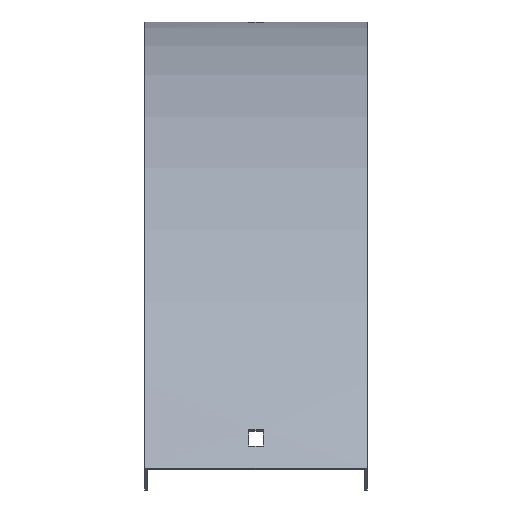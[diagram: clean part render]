
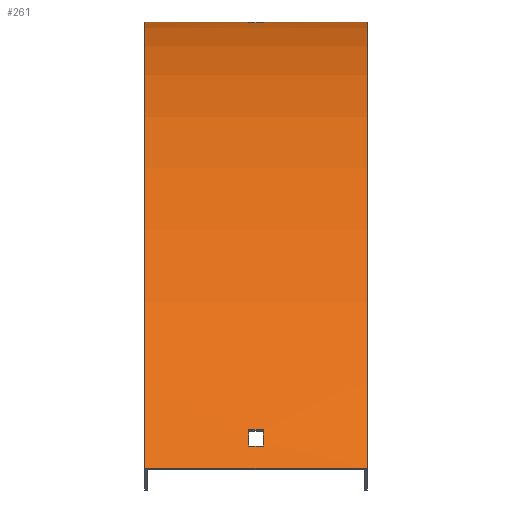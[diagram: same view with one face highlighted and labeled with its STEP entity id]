
A CAD part, top view. The second image highlights one B-rep face of the part: STEP entity #261.
In plain terms, the highlighted cylindrical face has radius 414 mm (diameter 828 mm), a partial arc.
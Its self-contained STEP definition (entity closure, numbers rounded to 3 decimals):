
#2 = VERTEX_POINT ( 'NONE', #54 ) ;
#13 = DIRECTION ( 'NONE',  ( 0., 1., 0. ) ) ;
#15 = CARTESIAN_POINT ( 'NONE',  ( -51.5, 0., 0. ) ) ;
#22 = DIRECTION ( 'NONE',  ( 0., 0., 1. ) ) ;
#35 = ORIENTED_EDGE ( 'NONE', *, *, #129, .F. ) ;
#41 = VERTEX_POINT ( 'NONE', #373 ) ;
#48 = FACE_BOUND ( 'NONE', #82, .T. ) ;
#54 = CARTESIAN_POINT ( 'NONE',  ( -3.25, -196.695, 352.384 ) ) ;
#58 = EDGE_CURVE ( 'NONE', #209, #598, #581, .T. ) ;
#66 = DIRECTION ( 'NONE',  ( -1., 0., 0. ) ) ;
#69 = CARTESIAN_POINT ( 'NONE',  ( 51.5, -0.174, 12. ) ) ;
#72 = VECTOR ( 'NONE', #508, 1000. ) ;
#73 = EDGE_CURVE ( 'NONE', #155, #554, #308, .T. ) ;
#74 = ORIENTED_EDGE ( 'NONE', *, *, #73, .T. ) ;
#80 = AXIS2_PLACEMENT_3D ( 'NONE', #163, #335, #22 ) ;
#82 = EDGE_LOOP ( 'NONE', ( #595, #362, #124, #502 ) ) ;
#86 = CYLINDRICAL_SURFACE ( 'NONE', #214, 414. ) ;
#88 = FACE_BOUND ( 'NONE', #398, .T. ) ;
#95 = CARTESIAN_POINT ( 'NONE',  ( -51.5, -414., 0. ) ) ;
#96 = CIRCLE ( 'NONE', #80, 414. ) ;
#97 = DIRECTION ( 'NONE',  ( 0., 0., 1. ) ) ;
#113 = ORIENTED_EDGE ( 'NONE', *, *, #372, .T. ) ;
#124 = ORIENTED_EDGE ( 'NONE', *, *, #509, .F. ) ;
#129 = EDGE_CURVE ( 'NONE', #161, #554, #487, .T. ) ;
#140 = DIRECTION ( 'NONE',  ( 0., 0., -1. ) ) ;
#145 = EDGE_CURVE ( 'NONE', #598, #500, #246, .T. ) ;
#151 = ORIENTED_EDGE ( 'NONE', *, *, #539, .T. ) ;
#155 = VERTEX_POINT ( 'NONE', #15 ) ;
#156 = DIRECTION ( 'NONE',  ( 1., 0., 0. ) ) ;
#159 = CARTESIAN_POINT ( 'NONE',  ( 3.25, -0.533, 21. ) ) ;
#161 = VERTEX_POINT ( 'NONE', #298 ) ;
#163 = CARTESIAN_POINT ( 'NONE',  ( 3.25, -414., 0. ) ) ;
#172 = FACE_OUTER_BOUND ( 'NONE', #534, .T. ) ;
#182 = AXIS2_PLACEMENT_3D ( 'NONE', #475, #339, #97 ) ;
#192 = CARTESIAN_POINT ( 'NONE',  ( 51.5, -414., 0. ) ) ;
#193 = CARTESIAN_POINT ( 'NONE',  ( 3.25, -0.174, 12. ) ) ;
#208 = VECTOR ( 'NONE', #291, 1000. ) ;
#209 = VERTEX_POINT ( 'NONE', #193 ) ;
#211 = VECTOR ( 'NONE', #570, 1000. ) ;
#212 = VERTEX_POINT ( 'NONE', #479 ) ;
#214 = AXIS2_PLACEMENT_3D ( 'NONE', #458, #411, #418 ) ;
#219 = LINE ( 'NONE', #374, #72 ) ;
#223 = CARTESIAN_POINT ( 'NONE',  ( 3.25, -414., 0. ) ) ;
#228 = VECTOR ( 'NONE', #342, 1000. ) ;
#241 = VECTOR ( 'NONE', #66, 1000. ) ;
#243 = ORIENTED_EDGE ( 'NONE', *, *, #293, .T. ) ;
#246 = LINE ( 'NONE', #442, #228 ) ;
#251 = EDGE_CURVE ( 'NONE', #2, #262, #219, .T. ) ;
#261 = ADVANCED_FACE ( 'NONE', ( #172, #88, #48 ), #86, .T. ) ;
#262 = VERTEX_POINT ( 'NONE', #515 ) ;
#270 = CIRCLE ( 'NONE', #594, 414. ) ;
#277 = LINE ( 'NONE', #381, #211 ) ;
#291 = DIRECTION ( 'NONE',  ( 1., 0., 0. ) ) ;
#293 = EDGE_CURVE ( 'NONE', #439, #155, #320, .T. ) ;
#298 = CARTESIAN_POINT ( 'NONE',  ( 51.5, -207., 358.535 ) ) ;
#308 = CIRCLE ( 'NONE', #469, 414. ) ;
#320 = LINE ( 'NONE', #425, #383 ) ;
#335 = DIRECTION ( 'NONE',  ( -1., 0., 0. ) ) ;
#339 = DIRECTION ( 'NONE',  ( -1., 0., 0. ) ) ;
#342 = DIRECTION ( 'NONE',  ( -1., 0., 0. ) ) ;
#347 = ORIENTED_EDGE ( 'NONE', *, *, #499, .F. ) ;
#358 = ORIENTED_EDGE ( 'NONE', *, *, #145, .T. ) ;
#362 = ORIENTED_EDGE ( 'NONE', *, *, #460, .F. ) ;
#370 = DIRECTION ( 'NONE',  ( -1., 0., 0. ) ) ;
#372 = EDGE_CURVE ( 'NONE', #500, #41, #491, .T. ) ;
#373 = CARTESIAN_POINT ( 'NONE',  ( -3.25, -0.174, 12. ) ) ;
#374 = CARTESIAN_POINT ( 'NONE',  ( 51.5, -196.695, 352.384 ) ) ;
#381 = CARTESIAN_POINT ( 'NONE',  ( 51.5, -189.08, 347.573 ) ) ;
#383 = VECTOR ( 'NONE', #370, 1000. ) ;
#387 = DIRECTION ( 'NONE',  ( 1., 0., 0. ) ) ;
#388 = DIRECTION ( 'NONE',  ( 1., 0., 0. ) ) ;
#398 = EDGE_LOOP ( 'NONE', ( #358, #113, #151, #507 ) ) ;
#399 = CARTESIAN_POINT ( 'NONE',  ( 51.5, 0., 0. ) ) ;
#400 = CARTESIAN_POINT ( 'NONE',  ( -3.25, -0.533, 21. ) ) ;
#404 = LINE ( 'NONE', #69, #208 ) ;
#411 = DIRECTION ( 'NONE',  ( -1., 0., 0. ) ) ;
#418 = DIRECTION ( 'NONE',  ( 0., 0., 1. ) ) ;
#425 = CARTESIAN_POINT ( 'NONE',  ( 51.5, 0., 0. ) ) ;
#439 = VERTEX_POINT ( 'NONE', #399 ) ;
#442 = CARTESIAN_POINT ( 'NONE',  ( 51.5, -0.533, 21. ) ) ;
#453 = AXIS2_PLACEMENT_3D ( 'NONE', #584, #156, #13 ) ;
#458 = CARTESIAN_POINT ( 'NONE',  ( 51.5, -414., 0. ) ) ;
#460 = EDGE_CURVE ( 'NONE', #580, #212, #277, .T. ) ;
#469 = AXIS2_PLACEMENT_3D ( 'NONE', #95, #388, #474 ) ;
#474 = DIRECTION ( 'NONE',  ( 0., 0., -1. ) ) ;
#475 = CARTESIAN_POINT ( 'NONE',  ( -3.25, -414., 0. ) ) ;
#479 = CARTESIAN_POINT ( 'NONE',  ( -3.25, -189.08, 347.573 ) ) ;
#480 = DIRECTION ( 'NONE',  ( 1., 0., 0. ) ) ;
#487 = LINE ( 'NONE', #492, #241 ) ;
#491 = CIRCLE ( 'NONE', #182, 414. ) ;
#492 = CARTESIAN_POINT ( 'NONE',  ( 51.5, -207., 358.535 ) ) ;
#499 = EDGE_CURVE ( 'NONE', #439, #161, #270, .T. ) ;
#500 = VERTEX_POINT ( 'NONE', #400 ) ;
#501 = AXIS2_PLACEMENT_3D ( 'NONE', #223, #480, #140 ) ;
#502 = ORIENTED_EDGE ( 'NONE', *, *, #251, .F. ) ;
#503 = CIRCLE ( 'NONE', #453, 414. ) ;
#507 = ORIENTED_EDGE ( 'NONE', *, *, #58, .T. ) ;
#508 = DIRECTION ( 'NONE',  ( 1., 0., 0. ) ) ;
#509 = EDGE_CURVE ( 'NONE', #262, #580, #96, .T. ) ;
#515 = CARTESIAN_POINT ( 'NONE',  ( 3.25, -196.695, 352.384 ) ) ;
#534 = EDGE_LOOP ( 'NONE', ( #74, #35, #347, #243 ) ) ;
#539 = EDGE_CURVE ( 'NONE', #41, #209, #404, .T. ) ;
#542 = CARTESIAN_POINT ( 'NONE',  ( 3.25, -189.08, 347.573 ) ) ;
#554 = VERTEX_POINT ( 'NONE', #574 ) ;
#570 = DIRECTION ( 'NONE',  ( -1., 0., 0. ) ) ;
#574 = CARTESIAN_POINT ( 'NONE',  ( -51.5, -207., 358.535 ) ) ;
#579 = DIRECTION ( 'NONE',  ( 0., 0., -1. ) ) ;
#580 = VERTEX_POINT ( 'NONE', #542 ) ;
#581 = CIRCLE ( 'NONE', #501, 414. ) ;
#584 = CARTESIAN_POINT ( 'NONE',  ( -3.25, -414., 0. ) ) ;
#594 = AXIS2_PLACEMENT_3D ( 'NONE', #192, #387, #579 ) ;
#595 = ORIENTED_EDGE ( 'NONE', *, *, #596, .F. ) ;
#596 = EDGE_CURVE ( 'NONE', #212, #2, #503, .T. ) ;
#598 = VERTEX_POINT ( 'NONE', #159 ) ;
